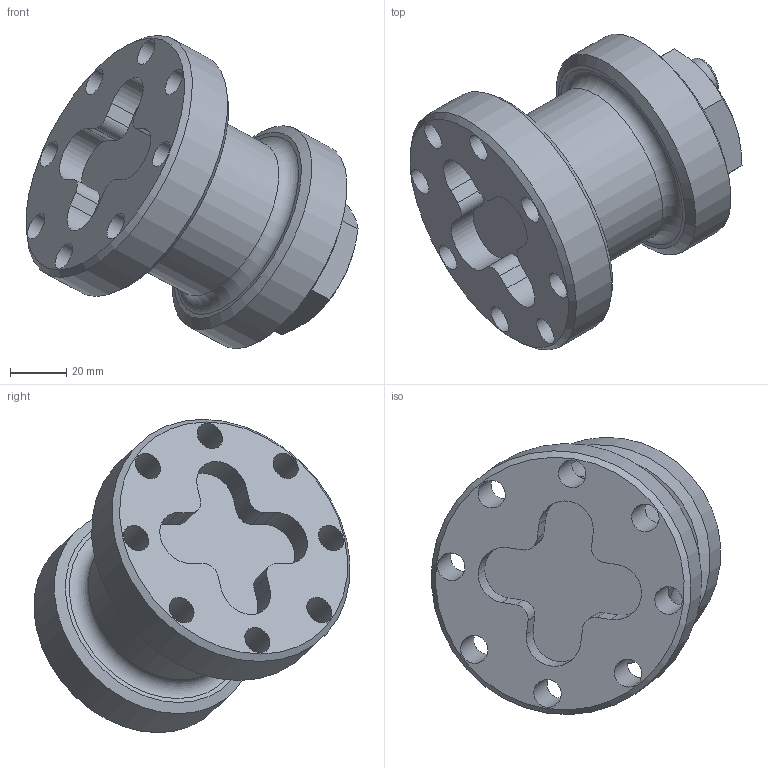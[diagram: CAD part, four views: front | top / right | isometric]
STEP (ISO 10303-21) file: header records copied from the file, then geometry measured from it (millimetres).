
FILE_DESCRIPTION((''),'2;1');
FILE_NAME('C:\Users\User\Desktop\Mastercam-harjoitukset\Mastercam_Lathe_4\MCAM_LATHE_C1.stp','2020-03-25T13:06:33',(''),(''),'STEP Write','Mastercam 2020 ... CNC Software, Inc.','');
FILE_SCHEMA(('AUTOMOTIVE_DESIGN'));
Length unit declared in the file: millimetre
Products named in the file (1): None
Bounding box: 118.01 x 112.28 x 111.42 mm (x, y, z)
Volume: 355094 mm3; surface area: 43437.9 mm2
Topology: 1 solids, 1 shells, 49 faces, 136 edges, 86 vertices
Faces by surface type: plane 21, cylinder 20, cone 6, torus 2
Full cylindrical faces by diameter (mm): 10 x8, 15 x1, 60 x1, 80 x1, 95 x1
Entity records: 1697 total; most frequent: CARTESIAN_POINT 447, DIRECTION 256, ORIENTED_EDGE 210, AXIS2_PLACEMENT_3D 106, EDGE_CURVE 105, EDGE_LOOP 82, VERTEX_POINT 75, CIRCLE 55
